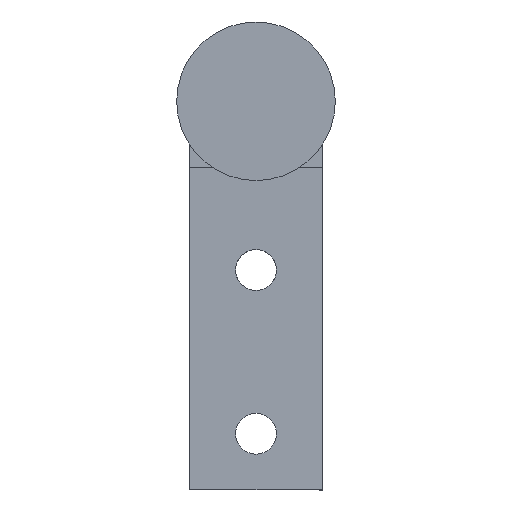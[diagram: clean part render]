
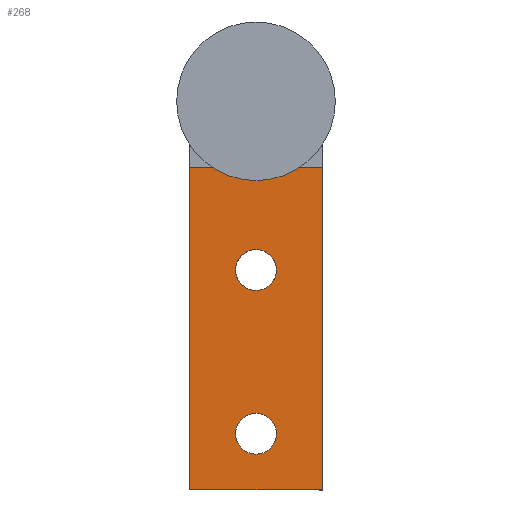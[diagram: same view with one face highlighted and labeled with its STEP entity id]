
A CAD part, front view. The second image highlights one B-rep face of the part: STEP entity #268.
In plain terms, the highlighted planar face has unit normal (0, -1, 0).
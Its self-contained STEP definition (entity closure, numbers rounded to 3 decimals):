
#5 = VERTEX_POINT ( 'NONE', #6 ) ;
#6 = CARTESIAN_POINT ( 'NONE',  ( 6.5, 589.8, -38. ) ) ;
#13 = VERTEX_POINT ( 'NONE', #556 ) ;
#17 = VERTEX_POINT ( 'NONE', #607 ) ;
#21 = VERTEX_POINT ( 'NONE', #605 ) ;
#28 = VERTEX_POINT ( 'NONE', #598 ) ;
#29 = VERTEX_POINT ( 'NONE', #597 ) ;
#90 = EDGE_CURVE ( 'NONE', #563, #17, #394, .T. ) ;
#100 = EDGE_CURVE ( 'NONE', #28, #29, #398, .T. ) ;
#101 = EDGE_CURVE ( 'NONE', #17, #563, #375, .T. ) ;
#103 = AXIS2_PLACEMENT_3D ( 'NONE', #573, #571, #570 ) ;
#104 = AXIS2_PLACEMENT_3D ( 'NONE', #576, #575, #574 ) ;
#109 = AXIS2_PLACEMENT_3D ( 'NONE', #637, #638, #639 ) ;
#110 = EDGE_CURVE ( 'NONE', #29, #28, #413, .T. ) ;
#131 = EDGE_CURVE ( 'NONE', #5, #564, #408, .T. ) ;
#132 = EDGE_CURVE ( 'NONE', #564, #13, #406, .T. ) ;
#139 = AXIS2_PLACEMENT_3D ( 'NONE', #542, #541, #540 ) ;
#170 = EDGE_CURVE ( 'NONE', #5, #21, #421, .T. ) ;
#171 = AXIS2_PLACEMENT_3D ( 'NONE', #632, #568, #567 ) ;
#178 = EDGE_CURVE ( 'NONE', #21, #13, #360, .T. ) ;
#268 = ADVANCED_FACE ( 'NONE', ( #370, #387, #378 ), #636, .T. ) ;
#317 = CARTESIAN_POINT ( 'NONE',  ( 6.5, 589.8, -38. ) ) ;
#318 = DIRECTION ( 'NONE',  ( 0., 0., 1. ) ) ;
#332 = DIRECTION ( 'NONE',  ( 0., 0., 1. ) ) ;
#333 = CARTESIAN_POINT ( 'NONE',  ( -6.5, 589.8, -38. ) ) ;
#334 = DIRECTION ( 'NONE',  ( -1., 0., 0. ) ) ;
#335 = CARTESIAN_POINT ( 'NONE',  ( 6.5, 589.8, -38. ) ) ;
#359 = VECTOR ( 'NONE', #753, 1000. ) ;
#360 = LINE ( 'NONE', #691, #359 ) ;
#370 = FACE_BOUND ( 'NONE', #527, .T. ) ;
#375 = CIRCLE ( 'NONE', #103, 2. ) ;
#378 = FACE_OUTER_BOUND ( 'NONE', #515, .T. ) ;
#387 = FACE_BOUND ( 'NONE', #516, .T. ) ;
#394 = CIRCLE ( 'NONE', #171, 2. ) ;
#398 = CIRCLE ( 'NONE', #104, 2. ) ;
#406 = LINE ( 'NONE', #333, #448 ) ;
#407 = VECTOR ( 'NONE', #334, 1000. ) ;
#408 = LINE ( 'NONE', #335, #407 ) ;
#413 = CIRCLE ( 'NONE', #139, 2. ) ;
#419 = VECTOR ( 'NONE', #318, 1000. ) ;
#421 = LINE ( 'NONE', #317, #419 ) ;
#448 = VECTOR ( 'NONE', #332, 1000. ) ;
#481 = ORIENTED_EDGE ( 'NONE', *, *, #170, .T. ) ;
#482 = ORIENTED_EDGE ( 'NONE', *, *, #131, .F. ) ;
#483 = ORIENTED_EDGE ( 'NONE', *, *, #132, .F. ) ;
#484 = ORIENTED_EDGE ( 'NONE', *, *, #178, .T. ) ;
#485 = ORIENTED_EDGE ( 'NONE', *, *, #90, .F. ) ;
#486 = ORIENTED_EDGE ( 'NONE', *, *, #101, .F. ) ;
#487 = ORIENTED_EDGE ( 'NONE', *, *, #110, .F. ) ;
#488 = ORIENTED_EDGE ( 'NONE', *, *, #100, .F. ) ;
#515 = EDGE_LOOP ( 'NONE', ( #484, #483, #482, #481 ) ) ;
#516 = EDGE_LOOP ( 'NONE', ( #486, #485 ) ) ;
#527 = EDGE_LOOP ( 'NONE', ( #488, #487 ) ) ;
#540 = DIRECTION ( 'NONE',  ( -1., 0., 0. ) ) ;
#541 = DIRECTION ( 'NONE',  ( 0., -1., 0. ) ) ;
#542 = CARTESIAN_POINT ( 'NONE',  ( 0., 589.8, -16.5 ) ) ;
#556 = CARTESIAN_POINT ( 'NONE',  ( -6.5, 589.8, -6.5 ) ) ;
#563 = VERTEX_POINT ( 'NONE', #744 ) ;
#564 = VERTEX_POINT ( 'NONE', #745 ) ;
#567 = DIRECTION ( 'NONE',  ( -1., 0., 0. ) ) ;
#568 = DIRECTION ( 'NONE',  ( 0., -1., 0. ) ) ;
#570 = DIRECTION ( 'NONE',  ( -1., 0., 0. ) ) ;
#571 = DIRECTION ( 'NONE',  ( 0., -1., 0. ) ) ;
#573 = CARTESIAN_POINT ( 'NONE',  ( 0., 589.8, -32.5 ) ) ;
#574 = DIRECTION ( 'NONE',  ( -1., 0., 0. ) ) ;
#575 = DIRECTION ( 'NONE',  ( 0., -1., 0. ) ) ;
#576 = CARTESIAN_POINT ( 'NONE',  ( 0., 589.8, -16.5 ) ) ;
#597 = CARTESIAN_POINT ( 'NONE',  ( 2., 589.8, -16.5 ) ) ;
#598 = CARTESIAN_POINT ( 'NONE',  ( -2., 589.8, -16.5 ) ) ;
#605 = CARTESIAN_POINT ( 'NONE',  ( 6.5, 589.8, -6.5 ) ) ;
#607 = CARTESIAN_POINT ( 'NONE',  ( -2., 589.8, -32.5 ) ) ;
#632 = CARTESIAN_POINT ( 'NONE',  ( 0., 589.8, -32.5 ) ) ;
#636 = PLANE ( 'NONE',  #109 ) ;
#637 = CARTESIAN_POINT ( 'NONE',  ( 6.5, 589.8, -38. ) ) ;
#638 = DIRECTION ( 'NONE',  ( 0., -1., 0. ) ) ;
#639 = DIRECTION ( 'NONE',  ( -1., 0., 0. ) ) ;
#691 = CARTESIAN_POINT ( 'NONE',  ( 6.5, 589.8, -6.5 ) ) ;
#744 = CARTESIAN_POINT ( 'NONE',  ( 2., 589.8, -32.5 ) ) ;
#745 = CARTESIAN_POINT ( 'NONE',  ( -6.5, 589.8, -38. ) ) ;
#753 = DIRECTION ( 'NONE',  ( -1., 0., 0. ) ) ;
